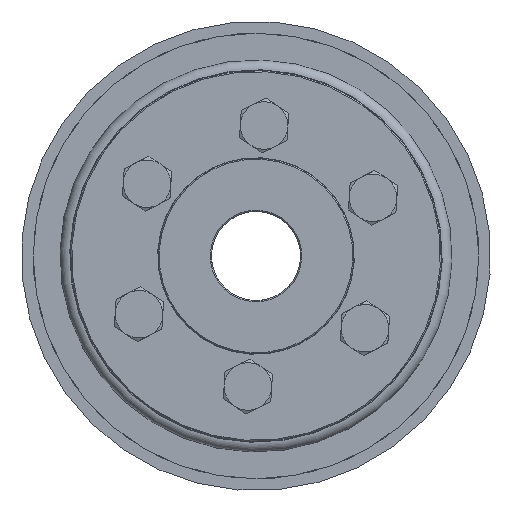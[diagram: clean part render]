
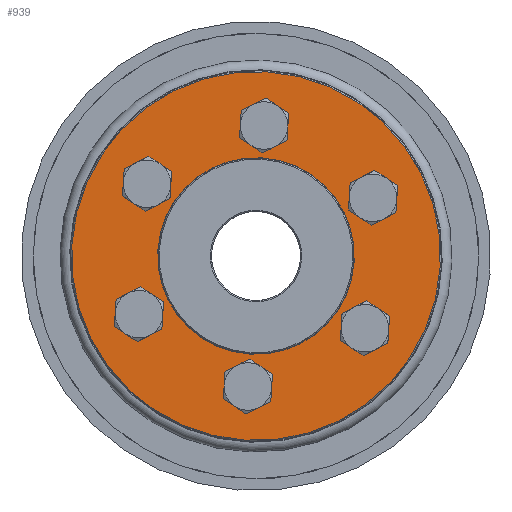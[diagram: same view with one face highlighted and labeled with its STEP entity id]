
A CAD part, left-side view. The second image highlights one B-rep face of the part: STEP entity #939.
In plain terms, the highlighted planar face has unit normal (-1, 0, 0).
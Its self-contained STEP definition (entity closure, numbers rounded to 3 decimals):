
#939 = ADVANCED_FACE( 'NONE', ( #1877, #1878, #1879, #1880, #1881, #1882, #1883, #1884 ), #1885, .F. );
#1877 = FACE_OUTER_BOUND( '', #2852, .T. );
#1878 = FACE_BOUND( '', #2853, .T. );
#1879 = FACE_BOUND( '', #2854, .T. );
#1880 = FACE_BOUND( '', #2855, .T. );
#1881 = FACE_BOUND( '', #2856, .T. );
#1882 = FACE_BOUND( '', #2857, .T. );
#1883 = FACE_BOUND( '', #2858, .T. );
#1884 = FACE_BOUND( '', #2859, .T. );
#1885 = PLANE( '', #2860 );
#2852 = EDGE_LOOP( '', ( #4143 ) );
#2853 = EDGE_LOOP( '', ( #4144 ) );
#2854 = EDGE_LOOP( '', ( #4145 ) );
#2855 = EDGE_LOOP( '', ( #4146 ) );
#2856 = EDGE_LOOP( '', ( #4147 ) );
#2857 = EDGE_LOOP( '', ( #4148 ) );
#2858 = EDGE_LOOP( '', ( #4149 ) );
#2859 = EDGE_LOOP( '', ( #4150 ) );
#2860 = AXIS2_PLACEMENT_3D( '', #4151, #4152, #4153 );
#4143 = ORIENTED_EDGE( '', *, *, #4957, .T. );
#4144 = ORIENTED_EDGE( '', *, *, #4782, .T. );
#4145 = ORIENTED_EDGE( '', *, *, #4804, .T. );
#4146 = ORIENTED_EDGE( '', *, *, #5091, .T. );
#4147 = ORIENTED_EDGE( '', *, *, #4938, .T. );
#4148 = ORIENTED_EDGE( '', *, *, #5086, .T. );
#4149 = ORIENTED_EDGE( '', *, *, #4792, .T. );
#4150 = ORIENTED_EDGE( '', *, *, #4858, .F. );
#4151 = CARTESIAN_POINT( '', ( 0., 16.5, 0. ) );
#4152 = DIRECTION( '', ( 1., 0., 0. ) );
#4153 = DIRECTION( '', ( 0., 1., 0. ) );
#4782 = EDGE_CURVE( 'NONE', #5403, #5403, #5404, .T. );
#4792 = EDGE_CURVE( 'NONE', #5419, #5419, #5420, .T. );
#4804 = EDGE_CURVE( 'NONE', #5440, #5440, #5441, .T. );
#4858 = EDGE_CURVE( 'NONE', #5529, #5529, #5530, .T. );
#4938 = EDGE_CURVE( 'NONE', #5655, #5655, #5656, .T. );
#4957 = EDGE_CURVE( 'NONE', #5681, #5681, #5682, .T. );
#5086 = EDGE_CURVE( 'NONE', #5855, #5855, #5856, .T. );
#5091 = EDGE_CURVE( 'NONE', #5861, #5861, #5862, .T. );
#5403 = VERTEX_POINT( '', #6337 );
#5404 = CIRCLE( '', #6338, 2.75 );
#5419 = VERTEX_POINT( '', #6353 );
#5420 = CIRCLE( '', #6354, 2.75 );
#5440 = VERTEX_POINT( '', #6374 );
#5441 = CIRCLE( '', #6375, 2.75 );
#5529 = VERTEX_POINT( '', #6501 );
#5530 = CIRCLE( '', #6502, 16.5 );
#5655 = VERTEX_POINT( '', #6761 );
#5656 = CIRCLE( '', #6762, 2.75 );
#5681 = VERTEX_POINT( '', #6800 );
#5682 = CIRCLE( '', #6801, 31.05 );
#5855 = VERTEX_POINT( '', #7063 );
#5856 = CIRCLE( '', #7064, 2.75 );
#5861 = VERTEX_POINT( '', #7072 );
#5862 = CIRCLE( '', #7073, 2.75 );
#6337 = CARTESIAN_POINT( '', ( 0., 11., 16.303 ) );
#6338 = AXIS2_PLACEMENT_3D( '', #7469, #7470, #7471 );
#6353 = CARTESIAN_POINT( '', ( 0., 22., -2.75 ) );
#6354 = AXIS2_PLACEMENT_3D( '', #7487, #7488, #7489 );
#6374 = CARTESIAN_POINT( '', ( 0., -11., 16.303 ) );
#6375 = AXIS2_PLACEMENT_3D( '', #7514, #7515, #7516 );
#6501 = CARTESIAN_POINT( '', ( 0., 0., 16.5 ) );
#6502 = AXIS2_PLACEMENT_3D( '', #7585, #7586, #7587 );
#6761 = CARTESIAN_POINT( '', ( 0., -11., -21.803 ) );
#6762 = AXIS2_PLACEMENT_3D( '', #7710, #7711, #7712 );
#6800 = CARTESIAN_POINT( '', ( 0., 0., -31.05 ) );
#6801 = AXIS2_PLACEMENT_3D( '', #7729, #7730, #7731 );
#7063 = CARTESIAN_POINT( '', ( 0., 11., -21.803 ) );
#7064 = AXIS2_PLACEMENT_3D( '', #7896, #7897, #7898 );
#7072 = CARTESIAN_POINT( '', ( 0., -22., -2.75 ) );
#7073 = AXIS2_PLACEMENT_3D( '', #7899, #7900, #7901 );
#7469 = CARTESIAN_POINT( '', ( 0., 11., 19.053 ) );
#7470 = DIRECTION( '', ( 1., 0., 0. ) );
#7471 = DIRECTION( '', ( 0., 0., -1. ) );
#7487 = CARTESIAN_POINT( '', ( 0., 22., 0. ) );
#7488 = DIRECTION( '', ( 1., 0., 0. ) );
#7489 = DIRECTION( '', ( 0., 0., -1. ) );
#7514 = CARTESIAN_POINT( '', ( 0., -11., 19.053 ) );
#7515 = DIRECTION( '', ( 1., 0., 0. ) );
#7516 = DIRECTION( '', ( 0., 0., -1. ) );
#7585 = CARTESIAN_POINT( '', ( 0., 0., 0. ) );
#7586 = DIRECTION( '', ( -1., 0., 0. ) );
#7587 = DIRECTION( '', ( 0., 0., 1. ) );
#7710 = CARTESIAN_POINT( '', ( 0., -11., -19.053 ) );
#7711 = DIRECTION( '', ( 1., 0., 0. ) );
#7712 = DIRECTION( '', ( 0., 0., -1. ) );
#7729 = CARTESIAN_POINT( '', ( 0., 0., 0. ) );
#7730 = DIRECTION( '', ( -1., 0., 0. ) );
#7731 = DIRECTION( '', ( 0., 0., -1. ) );
#7896 = CARTESIAN_POINT( '', ( 0., 11., -19.053 ) );
#7897 = DIRECTION( '', ( 1., 0., 0. ) );
#7898 = DIRECTION( '', ( 0., 0., -1. ) );
#7899 = CARTESIAN_POINT( '', ( 0., -22., 0. ) );
#7900 = DIRECTION( '', ( 1., 0., 0. ) );
#7901 = DIRECTION( '', ( 0., 0., -1. ) );
